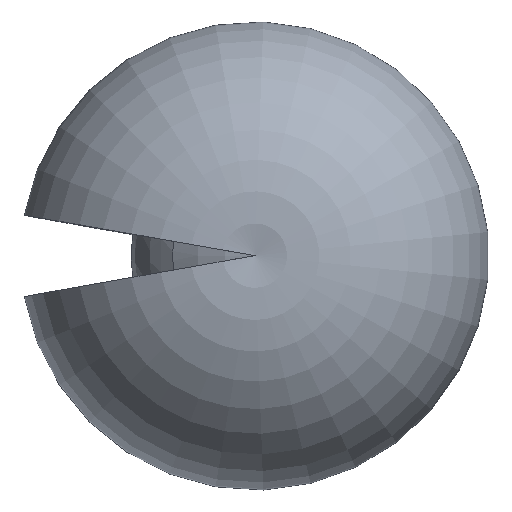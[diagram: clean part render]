
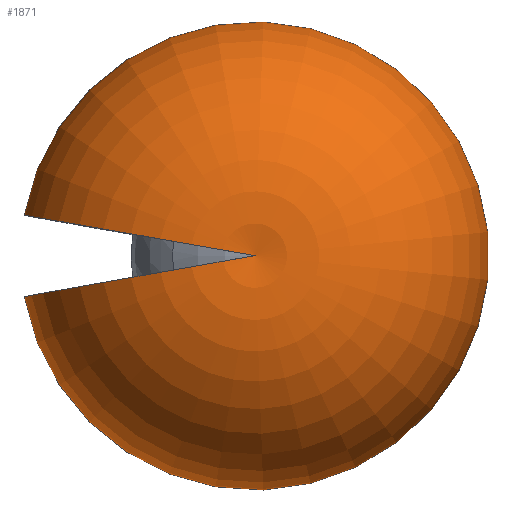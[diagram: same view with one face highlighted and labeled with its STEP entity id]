
A CAD part, top view. The second image highlights one B-rep face of the part: STEP entity #1871.
In plain terms, the highlighted toroidal (fillet/blend) face has major radius 695 mm and minor radius 3212.88 mm.
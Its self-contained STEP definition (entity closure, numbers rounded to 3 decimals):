
#1 = CIRCLE ( 'NONE', #1437, 5. ) ;
#7 = DIRECTION ( 'NONE',  ( 0., 0., 1. ) ) ;
#8 = ORIENTED_EDGE ( 'NONE', *, *, #674, .F. ) ;
#15 = CARTESIAN_POINT ( 'NONE',  ( -1771.615, -311.502, -2489.115 ) ) ;
#39 = DIRECTION ( 'NONE',  ( 0., 0., -1. ) ) ;
#51 = CARTESIAN_POINT ( 'NONE',  ( -5., 0., 530. ) ) ;
#65 = CIRCLE ( 'NONE', #1553, 5. ) ;
#97 = VERTEX_POINT ( 'NONE', #970 ) ;
#118 = ORIENTED_EDGE ( 'NONE', *, *, #1373, .T. ) ;
#131 = CARTESIAN_POINT ( 'NONE',  ( -9.924, -0.868, 3667.908 ) ) ;
#159 = EDGE_CURVE ( 'NONE', #97, #766, #1638, .T. ) ;
#164 = DIRECTION ( 'NONE',  ( 0., 0., 1. ) ) ;
#279 = CARTESIAN_POINT ( 'NONE',  ( -5., 0., 3667.908 ) ) ;
#306 = CARTESIAN_POINT ( 'NONE',  ( 0., 0., 3667.908 ) ) ;
#382 = EDGE_CURVE ( 'NONE', #1671, #766, #1004, .T. ) ;
#415 = ORIENTED_EDGE ( 'NONE', *, *, #159, .F. ) ;
#423 = ORIENTED_EDGE ( 'NONE', *, *, #382, .T. ) ;
#459 = CARTESIAN_POINT ( 'NONE',  ( -5., 0., -2489.115 ) ) ;
#467 = DIRECTION ( 'NONE',  ( -1., 0., 0. ) ) ;
#485 = TOROIDAL_SURFACE ( 'NONE', #1338, 695., 3212.875 ) ;
#567 = DIRECTION ( 'NONE',  ( -1., 0., 0. ) ) ;
#674 = EDGE_CURVE ( 'NONE', #710, #97, #1245, .T. ) ;
#710 = VERTEX_POINT ( 'NONE', #880 ) ;
#726 = AXIS2_PLACEMENT_3D ( 'NONE', #1328, #1199, #164 ) ;
#735 = CARTESIAN_POINT ( 'NONE',  ( -5., 0., 3667.908 ) ) ;
#766 = VERTEX_POINT ( 'NONE', #15 ) ;
#823 = VERTEX_POINT ( 'NONE', #306 ) ;
#827 = DIRECTION ( 'NONE',  ( 0., 0., -1. ) ) ;
#848 = AXIS2_PLACEMENT_3D ( 'NONE', #459, #1184, #467 ) ;
#880 = CARTESIAN_POINT ( 'NONE',  ( -9.924, 0.868, 3667.908 ) ) ;
#903 = DIRECTION ( 'NONE',  ( -1., 0., 0. ) ) ;
#970 = CARTESIAN_POINT ( 'NONE',  ( -1771.615, 311.502, -2489.115 ) ) ;
#1004 = CIRCLE ( 'NONE', #726, 3212.875 ) ;
#1014 = DIRECTION ( 'NONE',  ( 0., 0., -1. ) ) ;
#1082 = DIRECTION ( 'NONE',  ( -1., 0., 0. ) ) ;
#1146 = EDGE_CURVE ( 'NONE', #710, #823, #65, .T. ) ;
#1184 = DIRECTION ( 'NONE',  ( 0., 0., -1. ) ) ;
#1199 = DIRECTION ( 'NONE',  ( 0.174, -0.985, 0. ) ) ;
#1245 = CIRCLE ( 'NONE', #1750, 3212.875 ) ;
#1295 = DIRECTION ( 'NONE',  ( -0.174, -0.985, 0. ) ) ;
#1328 = CARTESIAN_POINT ( 'NONE',  ( -689.441, -120.685, 530. ) ) ;
#1338 = AXIS2_PLACEMENT_3D ( 'NONE', #51, #39, #1082 ) ;
#1373 = EDGE_CURVE ( 'NONE', #823, #1671, #1, .T. ) ;
#1374 = FACE_OUTER_BOUND ( 'NONE', #1410, .T. ) ;
#1410 = EDGE_LOOP ( 'NONE', ( #415, #8, #1835, #118, #423 ) ) ;
#1437 = AXIS2_PLACEMENT_3D ( 'NONE', #279, #827, #567 ) ;
#1532 = CARTESIAN_POINT ( 'NONE',  ( -689.441, 120.685, 530. ) ) ;
#1553 = AXIS2_PLACEMENT_3D ( 'NONE', #735, #1014, #903 ) ;
#1638 = CIRCLE ( 'NONE', #848, 1793.868 ) ;
#1671 = VERTEX_POINT ( 'NONE', #131 ) ;
#1750 = AXIS2_PLACEMENT_3D ( 'NONE', #1532, #1295, #7 ) ;
#1835 = ORIENTED_EDGE ( 'NONE', *, *, #1146, .T. ) ;
#1871 = ADVANCED_FACE ( 'NONE', ( #1374 ), #485, .T. ) ;
